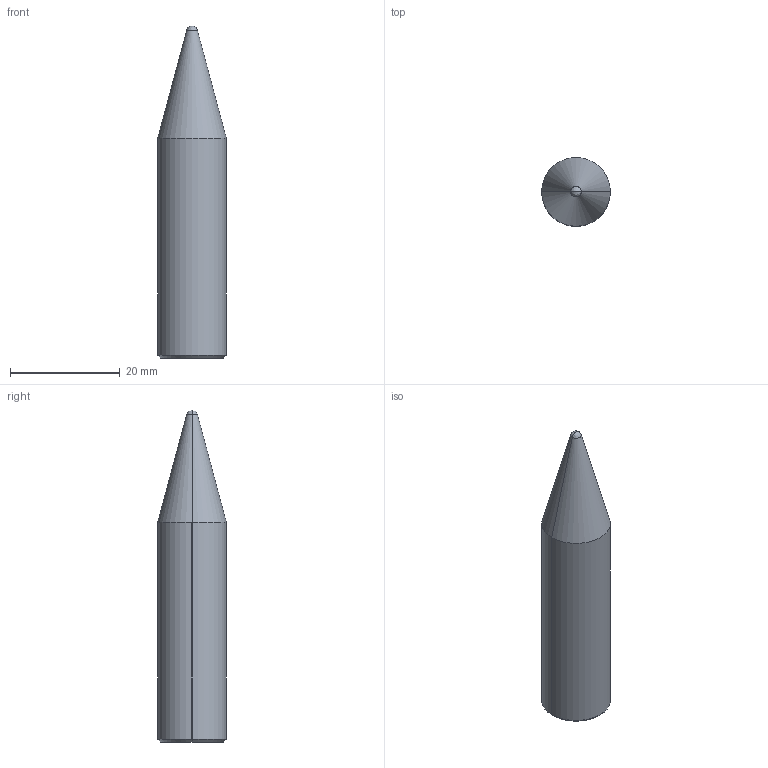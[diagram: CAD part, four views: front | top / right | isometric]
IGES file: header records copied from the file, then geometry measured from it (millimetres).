
Global section: file name: E:\UnigraphicsGraphicData\MISUMI_PRESS-PARTS\IGES\3d_snsth13-p12.50-b40_02976_r00.igs; native system: NX V5.0; preprocessor: UGS NX IGES V5.0; author: MISUMI; date: 20110105.162855; units: millimetre
Bounding box: 12.5 x 12.5 x 60.46 mm (x, y, z)
Surface area: 2375.7 mm2 (no closed solid volume)
Topology: 0 solids, 0 shells, 12 faces, 64 edges, 62 vertices
Faces by surface type: bspline 12
